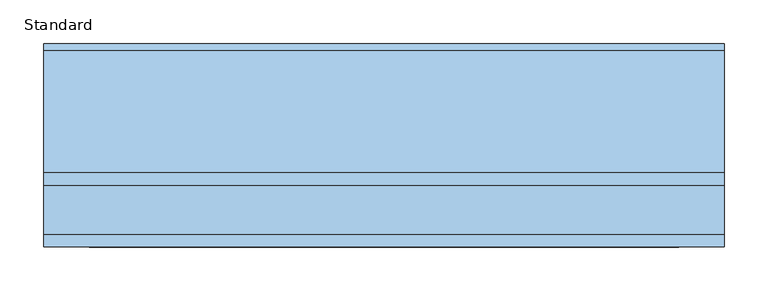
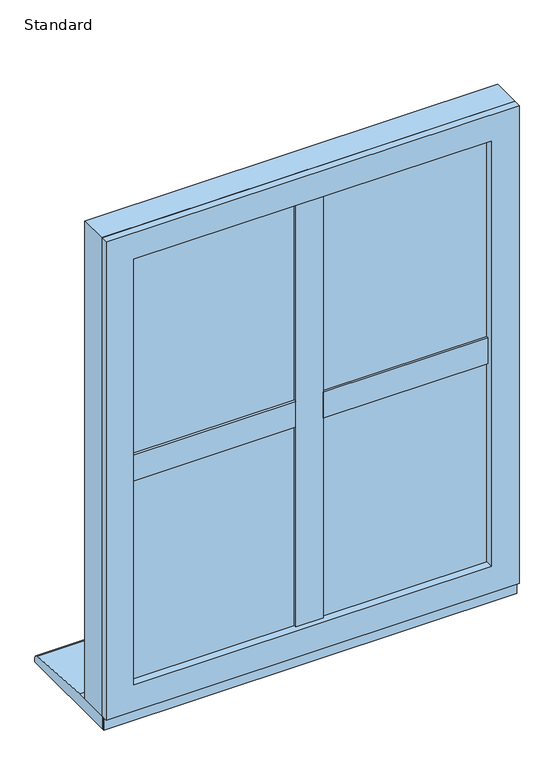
"""IFC4 building model written with IfcOpenShell, lengths in millimetres: window geometry, SMARTS_Alitherm600 : Standard."""

from ifc_helpers import new_model, si_unit, point, frame, frame_2d, origin, place, context, project, spatial, polyline, circle_curve, trimmed, segment, composite_curve, outline, extrude, faceted_brep, source, transform, mapped, element, save


def standard_b7164f84(model_context):
    return source(origin(), model_context, "Body", "SolidModel", [
        extrude(outline(polyline([(-9.4, 102.8298432), (9.4, 102.8298432), (9.4, 47.2458572), (-9.4, 47.2458572), (-9.4, 102.8298432)])), frame((0.0, 0.0, 670.8979117), z_axis=(0.0, 0.0, 1.0), x_axis=(1.0, 0.0, 0.0)), (0.0, 0.0, 1.0), 883.2041766),
        extrude(outline(polyline([(-25.9020883, 47.2458572), (25.9020883, 47.2458572), (25.9020883, 43.2798432), (-25.9020883, 43.2798432), (-25.9020883, 47.2458572)])), frame((0.0, 0.0, 687.4), z_axis=(0.0, 0.0, 1.0), x_axis=(1.0, 0.0, 0.0)), (0.0, 0.0, 1.0), 850.2),
        extrude(outline(polyline([(-9.4979117, 102.8298432), (-9.4979117, 47.2458572), (-354.1020883, 47.2458572), (-354.1020883, 102.8298432), (-9.4979117, 102.8298432)])), frame((0.0, 0.0, 1103.1), z_axis=(0.0, 0.0, 1.0), x_axis=(1.0, 0.0, 0.0)), (0.0, 0.0, 1.0), 18.8),
        extrude(outline(polyline([(-26.0, 47.2458572), (-26.0, 43.2798432), (-337.6, 43.2798432), (-337.6, 47.2458572), (-26.0, 47.2458572)])), frame((0.0, 0.0, 1086.5979117), z_axis=(0.0, 0.0, 1.0), x_axis=(1.0, 0.0, 0.0)), (0.0, 0.0, 1.0), 51.8041766),
        extrude(outline(polyline([(354.1020883, 102.8298432), (354.1020883, 47.2458572), (9.4979117, 47.2458572), (9.4979117, 102.8298432), (354.1020883, 102.8298432)])), frame((0.0, 0.0, 1103.1), z_axis=(0.0, 0.0, 1.0), x_axis=(1.0, 0.0, 0.0)), (0.0, 0.0, 1.0), 18.8),
        extrude(outline(polyline([(337.6, 47.2458572), (337.6, 43.2798432), (26.0, 43.2798432), (26.0, 47.2458572), (337.6, 47.2458572)])), frame((0.0, 0.0, 1086.5979117), z_axis=(0.0, 0.0, 1.0), x_axis=(1.0, 0.0, 0.0)), (0.0, 0.0, 1.0), 51.8041766),
        extrude(outline(polyline([(-352.6, 77.7798432), (-11.0, 77.7798432), (-11.0, 73.7798432), (-352.6, 73.7798432), (-352.6, 77.7798432)])), frame((0.0, 0.0, 672.4), z_axis=(0.0, 0.0, 1.0), x_axis=(1.0, 0.0, 0.0)), (0.0, 0.0, 1.0), 429.1),
        extrude(outline(polyline([(-352.6, 57.7798432), (-11.0, 57.7798432), (-11.0, 53.7798432), (-352.6, 53.7798432), (-352.6, 57.7798432)])), frame((0.0, 0.0, 672.4), z_axis=(0.0, 0.0, 1.0), x_axis=(1.0, 0.0, 0.0)), (0.0, 0.0, 1.0), 429.1),
        extrude(outline(polyline([(1101.5, -352.6), (672.4, -352.6), (672.4, -11.0), (1101.5, -11.0), (1101.5, -352.6)]), holes=[polyline([(1091.5, -21.0), (682.4, -21.0), (682.4, -342.6), (1091.5, -342.6), (1091.5, -21.0)])]), frame((0.0, 57.7798432, 0.0), z_axis=(0.0, 1.0, 0.0), x_axis=(0.0, 0.0, 1.0)), (0.0, 0.0, 1.0), 16.0),
        faceted_brep([(-349.4160653, 102.7798432, 1098.3160653), (-337.2339746, 81.6798432, 1086.1339746), (-337.2339746, 81.6798432, 687.7660254), (-349.4160653, 102.7798432, 675.5839347), (-26.3660254, 81.6798432, 687.7660254), (-14.1839347, 102.7798432, 675.5839347), (-26.3660254, 81.6798432, 1086.1339746), (-14.1839347, 102.7798432, 1098.3160653), (-9.5, 81.6798432, 1103.0), (-9.5, 102.7798432, 1103.0), (-354.1, 102.7798432, 1103.0), (-354.1, 81.6798432, 1103.0), (-354.1, 102.7798432, 670.9), (-354.1, 81.6798432, 670.9), (-9.5, 102.7798432, 670.9), (-9.5, 81.6798432, 670.9)], [[[0, 1, 2, 3]], [[3, 2, 4, 5]], [[5, 4, 6, 7]], [[7, 6, 1, 0]], [[8, 9, 10, 11]], [[11, 10, 12, 13]], [[13, 12, 14, 15]], [[9, 14, 12, 10], [0, 3, 5, 7]], [[15, 14, 9, 8]], [[11, 13, 15, 8], [6, 4, 2, 1]]]),
        extrude(outline(polyline([(-352.6, 77.7798432), (-11.0, 77.7798432), (-11.0, 73.7798432), (-352.6, 73.7798432), (-352.6, 77.7798432)])), frame((0.0, 0.0, 1123.5), z_axis=(0.0, 0.0, 1.0), x_axis=(1.0, 0.0, 0.0)), (0.0, 0.0, 1.0), 429.1),
        extrude(outline(polyline([(-352.6, 57.7798432), (-11.0, 57.7798432), (-11.0, 53.7798432), (-352.6, 53.7798432), (-352.6, 57.7798432)])), frame((0.0, 0.0, 1123.5), z_axis=(0.0, 0.0, 1.0), x_axis=(1.0, 0.0, 0.0)), (0.0, 0.0, 1.0), 429.1),
        extrude(outline(polyline([(1552.6, -352.6), (1123.5, -352.6), (1123.5, -11.0), (1552.6, -11.0), (1552.6, -352.6)]), holes=[polyline([(1542.6, -21.0), (1133.5, -21.0), (1133.5, -342.6), (1542.6, -342.6), (1542.6, -21.0)])]), frame((0.0, 57.7798432, 0.0), z_axis=(0.0, 1.0, 0.0), x_axis=(0.0, 0.0, 1.0)), (0.0, 0.0, 1.0), 16.0),
        faceted_brep([(-349.4160653, 102.7798432, 1549.4160653), (-337.2339746, 81.6798432, 1537.2339746), (-337.2339746, 81.6798432, 1138.8660254), (-349.4160653, 102.7798432, 1126.6839347), (-26.3660254, 81.6798432, 1138.8660254), (-14.1839347, 102.7798432, 1126.6839347), (-26.3660254, 81.6798432, 1537.2339746), (-14.1839347, 102.7798432, 1549.4160653), (-9.5, 81.6798432, 1554.1), (-9.5, 102.7798432, 1554.1), (-354.1, 102.7798432, 1554.1), (-354.1, 81.6798432, 1554.1), (-354.1, 102.7798432, 1122.0), (-354.1, 81.6798432, 1122.0), (-9.5, 102.7798432, 1122.0), (-9.5, 81.6798432, 1122.0)], [[[0, 1, 2, 3]], [[3, 2, 4, 5]], [[5, 4, 6, 7]], [[7, 6, 1, 0]], [[8, 9, 10, 11]], [[11, 10, 12, 13]], [[13, 12, 14, 15]], [[9, 14, 12, 10], [0, 3, 5, 7]], [[15, 14, 9, 8]], [[11, 13, 15, 8], [6, 4, 2, 1]]]),
        extrude(outline(polyline([(11.0, 77.7798432), (352.6, 77.7798432), (352.6, 73.7798432), (11.0, 73.7798432), (11.0, 77.7798432)])), frame((0.0, 0.0, 672.4), z_axis=(0.0, 0.0, 1.0), x_axis=(1.0, 0.0, 0.0)), (0.0, 0.0, 1.0), 429.1),
        extrude(outline(polyline([(11.0, 57.7798432), (352.6, 57.7798432), (352.6, 53.7798432), (11.0, 53.7798432), (11.0, 57.7798432)])), frame((0.0, 0.0, 672.4), z_axis=(0.0, 0.0, 1.0), x_axis=(1.0, 0.0, 0.0)), (0.0, 0.0, 1.0), 429.1),
        extrude(outline(polyline([(1101.5, 11.0), (672.4, 11.0), (672.4, 352.6), (1101.5, 352.6), (1101.5, 11.0)]), holes=[polyline([(1091.5, 342.6), (682.4, 342.6), (682.4, 21.0), (1091.5, 21.0), (1091.5, 342.6)])]), frame((0.0, 57.7798432, 0.0), z_axis=(0.0, 1.0, 0.0), x_axis=(0.0, 0.0, 1.0)), (0.0, 0.0, 1.0), 16.0),
        faceted_brep([(14.1839347, 102.7798432, 1098.3160653), (26.3660254, 81.6798432, 1086.1339746), (26.3660254, 81.6798432, 687.7660254), (14.1839347, 102.7798432, 675.5839347), (337.2339746, 81.6798432, 687.7660254), (349.4160653, 102.7798432, 675.5839347), (337.2339746, 81.6798432, 1086.1339746), (349.4160653, 102.7798432, 1098.3160653), (354.1, 81.6798432, 1103.0), (354.1, 102.7798432, 1103.0), (9.5, 102.7798432, 1103.0), (9.5, 81.6798432, 1103.0), (9.5, 102.7798432, 670.9), (9.5, 81.6798432, 670.9), (354.1, 102.7798432, 670.9), (354.1, 81.6798432, 670.9)], [[[0, 1, 2, 3]], [[3, 2, 4, 5]], [[5, 4, 6, 7]], [[7, 6, 1, 0]], [[8, 9, 10, 11]], [[11, 10, 12, 13]], [[13, 12, 14, 15]], [[9, 14, 12, 10], [0, 3, 5, 7]], [[15, 14, 9, 8]], [[11, 13, 15, 8], [6, 4, 2, 1]]]),
        extrude(outline(polyline([(1590.0, 390.0), (1590.0, -390.0), (635.0, -390.0), (635.0, 390.0), (1590.0, 390.0)]), holes=[polyline([(670.85, 354.15), (670.85, -354.15), (1554.15, -354.15), (1554.15, 354.15), (670.85, 354.15)])]), frame((0.0, 47.2798427, 0.0), z_axis=(0.0, 1.0, 0.0), x_axis=(0.0, 0.0, 1.0)), (0.0, 0.0, 1.0), 55.5500006),
        extrude(outline(polyline([(1590.0, 390.0), (1590.0, -390.0), (635.0, -390.0), (635.0, 390.0), (1590.0, 390.0)]), holes=[polyline([(687.35, 337.65), (687.35, -337.65), (1537.65, -337.65), (1537.65, 337.65), (687.35, 337.65)])]), frame((0.0, 32.8298432, 0.0), z_axis=(0.0, 1.0, 0.0), x_axis=(0.0, 0.0, 1.0)), (0.0, 0.0, 1.0), 14.4499994),
        extrude(outline(polyline([(11.0, 77.7798432), (352.6, 77.7798432), (352.6, 73.7798432), (11.0, 73.7798432), (11.0, 77.7798432)])), frame((0.0, 0.0, 1123.5), z_axis=(0.0, 0.0, 1.0), x_axis=(1.0, 0.0, 0.0)), (0.0, 0.0, 1.0), 429.1),
        extrude(outline(polyline([(11.0, 57.7798432), (352.6, 57.7798432), (352.6, 53.7798432), (11.0, 53.7798432), (11.0, 57.7798432)])), frame((0.0, 0.0, 1123.5), z_axis=(0.0, 0.0, 1.0), x_axis=(1.0, 0.0, 0.0)), (0.0, 0.0, 1.0), 429.1),
        extrude(outline(polyline([(1552.6, 11.0), (1123.5, 11.0), (1123.5, 352.6), (1552.6, 352.6), (1552.6, 11.0)]), holes=[polyline([(1542.6, 342.6), (1133.5, 342.6), (1133.5, 21.0), (1542.6, 21.0), (1542.6, 342.6)])]), frame((0.0, 57.7798432, 0.0), z_axis=(0.0, 1.0, 0.0), x_axis=(0.0, 0.0, 1.0)), (0.0, 0.0, 1.0), 16.0),
        faceted_brep([(14.1839347, 102.7798432, 1549.4160653), (26.3660254, 81.6798432, 1537.2339746), (26.3660254, 81.6798432, 1138.8660254), (14.1839347, 102.7798432, 1126.6839347), (337.2339746, 81.6798432, 1138.8660254), (349.4160653, 102.7798432, 1126.6839347), (337.2339746, 81.6798432, 1537.2339746), (349.4160653, 102.7798432, 1549.4160653), (354.1, 81.6798432, 1554.1), (354.1, 102.7798432, 1554.1), (9.5, 102.7798432, 1554.1), (9.5, 81.6798432, 1554.1), (9.5, 102.7798432, 1122.0), (9.5, 81.6798432, 1122.0), (354.1, 102.7798432, 1122.0), (354.1, 81.6798432, 1122.0)], [[[0, 1, 2, 3]], [[3, 2, 4, 5]], [[5, 4, 6, 7]], [[7, 6, 1, 0]], [[8, 9, 10, 11]], [[11, 10, 12, 13]], [[13, 12, 14, 15]], [[9, 14, 12, 10], [0, 3, 5, 7]], [[15, 14, 9, 8]], [[11, 13, 15, 8], [6, 4, 2, 1]]]),
        extrude(outline(polyline([(390.0, 43.2798432), (390.0, 40.7798432), (-390.0, 40.7798432), (-390.0, 43.2798432), (390.0, 43.2798432)])), frame((0.0, 0.0, 610.0), z_axis=(0.0, 0.0, 1.0), x_axis=(1.0, 0.0, 0.0)), (0.0, 0.0, 1.0), 31.0),
        extrude(outline(composite_curve([segment(polyline([(265.7798432, 610.0), (43.2798432, 610.0), (43.2798432, 635.0), (118.7798432, 635.0), (258.4770891, 625.9276664)]), True, "CONTINUOUS"), segment(trimmed(circle_curve(frame_2d((257.7798432, 617.9581088)), 8.0), [point((258.4770891, 625.9276664))], [point((265.7798432, 617.9581088))], False, "CARTESIAN"), True, "CONTINUOUS"), segment(polyline([(265.7798432, 617.9581088), (265.7798432, 610.0)]), True, "CONTINUOUS")], self_intersect=False)), frame((-390.0, 0.0, 0.0), z_axis=(1.0, 0.0, 0.0), x_axis=(0.0, 1.0, 0.0)), (0.0, 0.0, 1.0), 780.0),
    ])


if __name__ == "__main__":
    model = new_model("IFC4")
    model_context = context("Model", 3, world=origin())
    ifc_project = project(units=[si_unit("LENGTHUNIT", "METRE", prefix="MILLI")], contexts=[model_context])
    site = spatial("IfcSite", under=ifc_project)
    building = spatial("IfcBuilding", under=site)
    placement = place(None, origin())
    standard_shape = standard_b7164f84(model_context)
    element("IfcWindow", 1, ObjectType="SMARTS_Alitherm600 : Standard", at=placement, inside=building, context=model_context, shape_type="MappedRepresentation", body=[
        mapped(standard_shape, transform((0.0, 0.0, 0.0), x_axis=(1.0, 0.0, 0.0), y_axis=(0.0, 1.0, 0.0), z_axis=(0.0, 0.0, 1.0))),
    ])
    save(model, "model.ifc")
